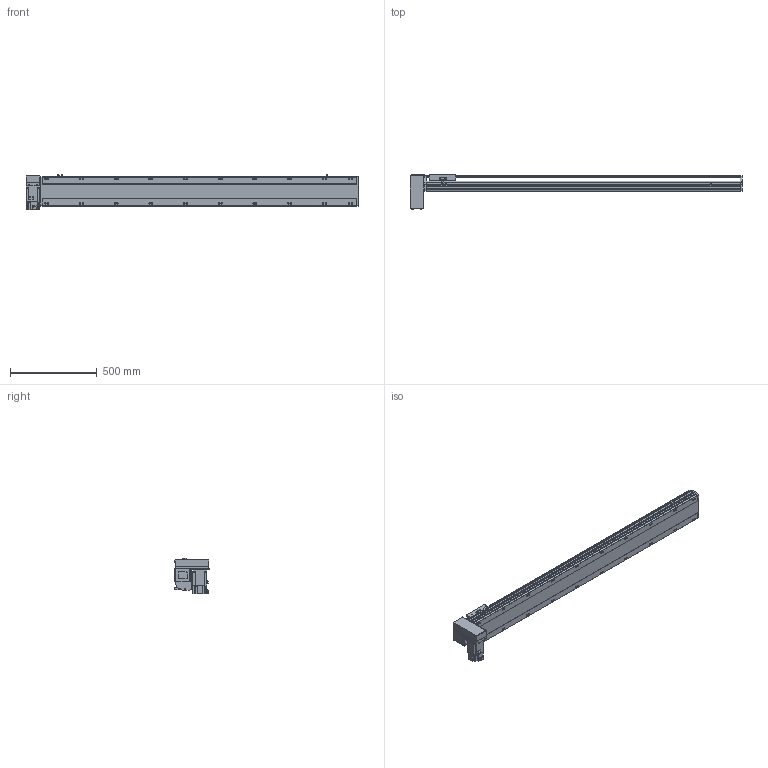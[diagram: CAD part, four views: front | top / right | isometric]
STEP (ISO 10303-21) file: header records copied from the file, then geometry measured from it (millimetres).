
FILE_DESCRIPTION( ( 'STEP AP214' ), '1' );
FILE_NAME( 'x:/temp/worker_5/temp/exporttempdir_3988_35_bZA4I/format_0/PBS170-P40-S1550-RD-T75-C1-N(0).stp', '2022-06-08T05:36:15', ( 'License CC BY-ND 4.0' ), ( 'CADENAS' ), ' ', 'PARTsolutions', ' ' );
FILE_SCHEMA( ( 'AUTOMOTIVE_DESIGN { 1 0 10303 214 1 1 1 1 }' ) );
Length unit declared in the file: millimetre
Products named in the file (7): PBS170-P40-S1550-RD-T75-C1-N(0); _PBS170-S1550()_body; _PBS170T-RD_motors; _T75-p1; _PBS170_sliser; _PBS170_plant; _PBS170_sensor
Assembly tree (8 placements, depth 2):
  PBS170-P40-S1550-RD-T75-C1-N(0)
    _PBS170-S1550()_body
    _PBS170T-RD_motors
    _T75-p1
    _PBS170_sliser
    _PBS170_plant
    _PBS170_sensor  x3
Bounding box: 1913 x 201 x 205.3 mm (x, y, z)
Volume: 14909919.6 mm3; surface area: 1912760.8 mm2
Topology: 8 solids, 8 shells, 1114 faces, 2955 edges, 1926 vertices
Faces by surface type: plane 699, cylinder 355, cone 50, sphere 8, torus 2
Full cylindrical faces by diameter (mm): 3.242 x4, 4 x2, 4.4 x4, 4.5 x6, 4.917 x4, 6 x9, 6.647 x28, 7 x2, 7.5 x4, 8 x8, 8.5 x20, 10 x4, 10.5 x20, 11 x2, 30 x2, 40 x1, 70 x1
Entity records: 41024 total; most frequent: CARTESIAN_POINT 6557, DIRECTION 5440, ORIENTED_EDGE 5148, EDGE_CURVE 2574, AXIS2_PLACEMENT_3D 1897, VERTEX_POINT 1778, LINE 1646, VECTOR 1646
